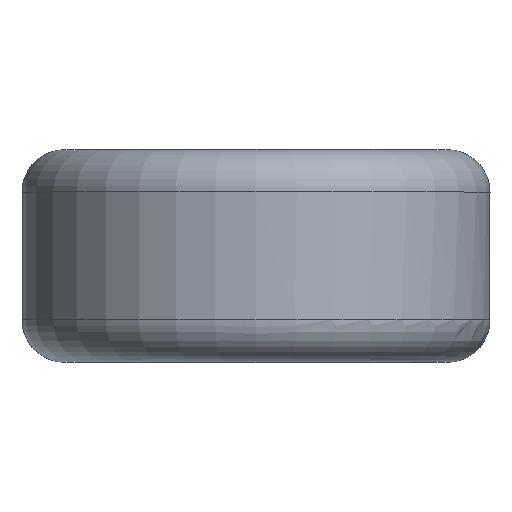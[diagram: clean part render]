
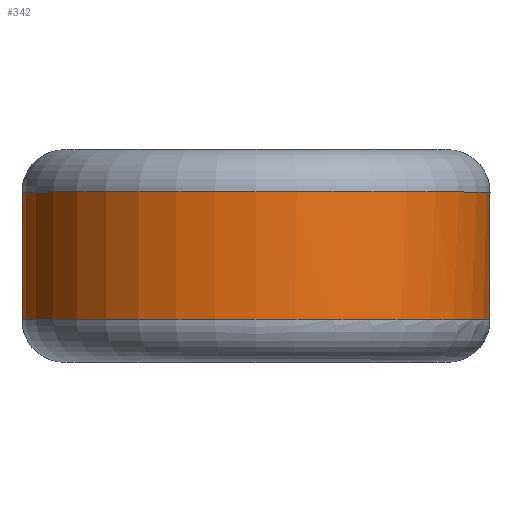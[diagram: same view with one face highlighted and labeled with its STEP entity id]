
A CAD part, top view. The second image highlights one B-rep face of the part: STEP entity #342.
In plain terms, the highlighted cylindrical face has radius 5.5 mm (diameter 11 mm), a full revolution.
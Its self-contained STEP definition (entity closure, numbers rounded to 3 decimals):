
#28=B_SPLINE_CURVE_WITH_KNOTS('',3,(#951,#952,#953,#954,#955,#956,#957,
#958,#959,#960,#961,#962,#963,#964),.UNSPECIFIED.,.F.,.F.,(4,1,1,2,1,1,
1,2,1,4),(-0.208,-0.175,-0.142,-0.097,
-0.07,-0.06,-0.056,-0.051,
-0.031,0.),.UNSPECIFIED.);
#30=B_SPLINE_CURVE_WITH_KNOTS('',3,(#1062,#1063,#1064,#1065,#1066,#1067,
#1068,#1069,#1070,#1071,#1072,#1073,#1074,#1075),.UNSPECIFIED.,.F.,.F.,
(4,1,1,2,1,1,1,2,1,4),(-0.208,-0.175,-0.142,
-0.097,-0.07,-0.06,-0.056,
-0.051,-0.031,0.),.UNSPECIFIED.);
#80=FACE_OUTER_BOUND('',#100,.T.);
#100=EDGE_LOOP('',(#273,#274,#275,#276,#277,#278,#279,#280,#281,#282));
#113=LINE('',#1056,#116);
#116=VECTOR('',#447,5.5);
#128=CIRCLE('',#387,5.5);
#129=CIRCLE('',#388,5.5);
#130=CIRCLE('',#389,5.5);
#131=CIRCLE('',#391,5.5);
#132=CIRCLE('',#392,5.5);
#133=CIRCLE('',#393,5.5);
#155=VERTEX_POINT('',#947);
#156=VERTEX_POINT('',#949);
#159=VERTEX_POINT('',#1048);
#160=VERTEX_POINT('',#1051);
#161=VERTEX_POINT('',#1055);
#162=VERTEX_POINT('',#1057);
#163=VERTEX_POINT('',#1059);
#164=VERTEX_POINT('',#1061);
#196=EDGE_CURVE('',#155,#156,#28,.T.);
#201=EDGE_CURVE('',#156,#159,#128,.T.);
#202=EDGE_CURVE('',#160,#155,#129,.T.);
#203=EDGE_CURVE('',#159,#160,#130,.T.);
#204=EDGE_CURVE('',#160,#161,#113,.T.);
#205=EDGE_CURVE('',#161,#162,#131,.T.);
#206=EDGE_CURVE('',#162,#163,#132,.T.);
#207=EDGE_CURVE('',#163,#164,#30,.T.);
#208=EDGE_CURVE('',#164,#161,#133,.T.);
#273=ORIENTED_EDGE('',*,*,#196,.T.);
#274=ORIENTED_EDGE('',*,*,#201,.T.);
#275=ORIENTED_EDGE('',*,*,#203,.T.);
#276=ORIENTED_EDGE('',*,*,#204,.T.);
#277=ORIENTED_EDGE('',*,*,#205,.T.);
#278=ORIENTED_EDGE('',*,*,#206,.T.);
#279=ORIENTED_EDGE('',*,*,#207,.T.);
#280=ORIENTED_EDGE('',*,*,#208,.T.);
#281=ORIENTED_EDGE('',*,*,#204,.F.);
#282=ORIENTED_EDGE('',*,*,#202,.T.);
#332=CYLINDRICAL_SURFACE('',#390,5.5);
#342=ADVANCED_FACE('',(#80),#332,.T.);
#387=AXIS2_PLACEMENT_3D('',#1050,#439,#440);
#388=AXIS2_PLACEMENT_3D('',#1052,#441,#442);
#389=AXIS2_PLACEMENT_3D('',#1053,#443,#444);
#390=AXIS2_PLACEMENT_3D('',#1054,#445,#446);
#391=AXIS2_PLACEMENT_3D('',#1058,#448,#449);
#392=AXIS2_PLACEMENT_3D('',#1060,#450,#451);
#393=AXIS2_PLACEMENT_3D('',#1076,#452,#453);
#439=DIRECTION('center_axis',(0.,-1.,0.));
#440=DIRECTION('ref_axis',(-1.,0.,0.));
#441=DIRECTION('center_axis',(0.,-1.,0.));
#442=DIRECTION('ref_axis',(-1.,0.,0.));
#443=DIRECTION('center_axis',(0.,-1.,0.));
#444=DIRECTION('ref_axis',(-1.,0.,0.));
#445=DIRECTION('center_axis',(0.,-1.,0.));
#446=DIRECTION('ref_axis',(1.,0.,0.));
#447=DIRECTION('',(0.,-1.,0.));
#448=DIRECTION('center_axis',(0.,1.,0.));
#449=DIRECTION('ref_axis',(-1.,0.,0.));
#450=DIRECTION('center_axis',(0.,1.,0.));
#451=DIRECTION('ref_axis',(-1.,0.,0.));
#452=DIRECTION('center_axis',(0.,1.,0.));
#453=DIRECTION('ref_axis',(-1.,0.,0.));
#947=CARTESIAN_POINT('',(-2.473,1.5,-4.912));
#949=CARTESIAN_POINT('',(-1.498,1.5,-5.292));
#951=CARTESIAN_POINT('Ctrl Pts',(-2.473,1.5,-4.912));
#952=CARTESIAN_POINT('Ctrl Pts',(-2.505,1.395,-4.897));
#953=CARTESIAN_POINT('Ctrl Pts',(-2.509,1.161,-4.894));
#954=CARTESIAN_POINT('Ctrl Pts',(-2.317,0.837,-4.991));
#955=CARTESIAN_POINT('Ctrl Pts',(-2.071,0.764,-5.098));
#956=CARTESIAN_POINT('Ctrl Pts',(-1.85,0.799,-5.18));
#957=CARTESIAN_POINT('Ctrl Pts',(-1.741,0.848,-5.218));
#958=CARTESIAN_POINT('Ctrl Pts',(-1.64,0.937,-5.25));
#959=CARTESIAN_POINT('Ctrl Pts',(-1.6,0.981,-5.262));
#960=CARTESIAN_POINT('Ctrl Pts',(-1.581,1.004,-5.268));
#961=CARTESIAN_POINT('Ctrl Pts',(-1.532,1.07,-5.283));
#962=CARTESIAN_POINT('Ctrl Pts',(-1.453,1.223,-5.305));
#963=CARTESIAN_POINT('Ctrl Pts',(-1.462,1.405,-5.302));
#964=CARTESIAN_POINT('Ctrl Pts',(-1.498,1.5,-5.292));
#1048=CARTESIAN_POINT('',(0.,1.5,-5.5));
#1050=CARTESIAN_POINT('Origin',(0.,1.5,0.));
#1051=CARTESIAN_POINT('',(-5.5,1.5,0.));
#1052=CARTESIAN_POINT('Origin',(0.,1.5,0.));
#1053=CARTESIAN_POINT('Origin',(0.,1.5,0.));
#1054=CARTESIAN_POINT('Origin',(0.,0.,0.));
#1055=CARTESIAN_POINT('',(-5.5,-1.5,0.));
#1056=CARTESIAN_POINT('',(-5.5,0.,0.));
#1057=CARTESIAN_POINT('',(0.,-1.5,5.5));
#1058=CARTESIAN_POINT('Origin',(0.,-1.5,0.));
#1059=CARTESIAN_POINT('',(2.473,-1.5,-4.912));
#1060=CARTESIAN_POINT('Origin',(0.,-1.5,0.));
#1061=CARTESIAN_POINT('',(1.498,-1.5,-5.292));
#1062=CARTESIAN_POINT('Ctrl Pts',(2.473,-1.5,-4.912));
#1063=CARTESIAN_POINT('Ctrl Pts',(2.505,-1.395,-4.897));
#1064=CARTESIAN_POINT('Ctrl Pts',(2.509,-1.161,-4.894));
#1065=CARTESIAN_POINT('Ctrl Pts',(2.317,-0.837,-4.991));
#1066=CARTESIAN_POINT('Ctrl Pts',(2.071,-0.764,-5.098));
#1067=CARTESIAN_POINT('Ctrl Pts',(1.85,-0.799,-5.18));
#1068=CARTESIAN_POINT('Ctrl Pts',(1.741,-0.848,-5.218));
#1069=CARTESIAN_POINT('Ctrl Pts',(1.64,-0.937,-5.25));
#1070=CARTESIAN_POINT('Ctrl Pts',(1.6,-0.981,-5.262));
#1071=CARTESIAN_POINT('Ctrl Pts',(1.581,-1.004,-5.268));
#1072=CARTESIAN_POINT('Ctrl Pts',(1.532,-1.07,-5.283));
#1073=CARTESIAN_POINT('Ctrl Pts',(1.453,-1.223,-5.305));
#1074=CARTESIAN_POINT('Ctrl Pts',(1.462,-1.405,-5.302));
#1075=CARTESIAN_POINT('Ctrl Pts',(1.498,-1.5,-5.292));
#1076=CARTESIAN_POINT('Origin',(0.,-1.5,0.));
